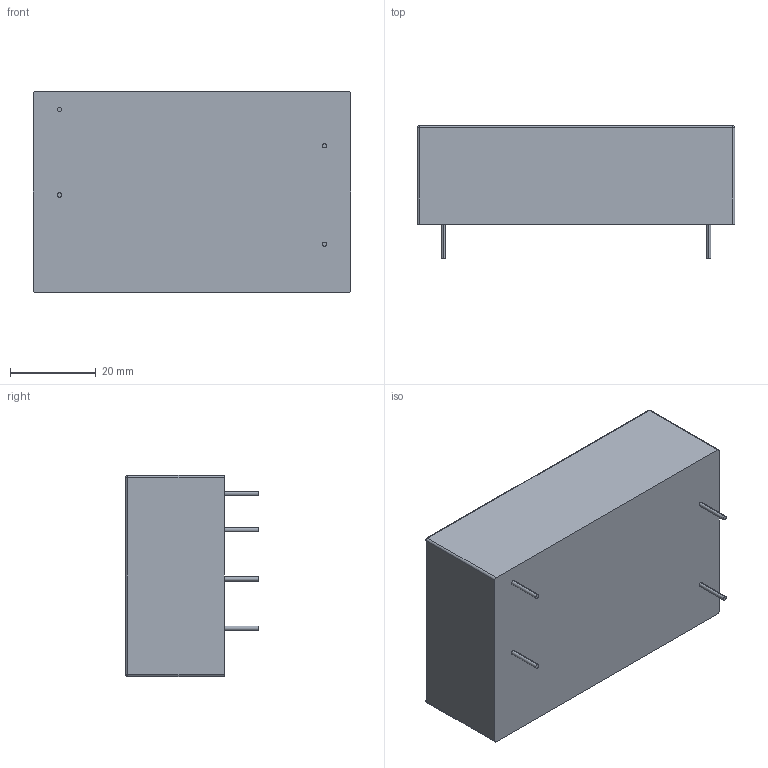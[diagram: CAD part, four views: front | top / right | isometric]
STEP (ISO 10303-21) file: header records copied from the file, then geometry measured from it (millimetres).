
FILE_DESCRIPTION (( 'STEP AP214' ), '1' );
FILE_NAME ('VTX-214-060-1xx.STEP', '2022-03-16T15:59:50', ( '' ), ( '' ), 'SwSTEP 2.0', 'SolidWorks 2022', '' );
FILE_SCHEMA (( 'AUTOMOTIVE_DESIGN' ));
Length unit declared in the file: millimetre
Products named in the file (1): VTX-214-060-1xx
Bounding box: 74.2 x 31.11 x 47 mm (x, y, z)
Volume: 80566.5 mm3; surface area: 12605.4 mm2
Topology: 1 solids, 1 shells, 459 faces, 1195 edges, 790 vertices
Faces by surface type: plane 300, bspline 139, cylinder 16, sphere 4
Entity records: 25891 total; most frequent: CARTESIAN_POINT 10756, ORIENTED_EDGE 2382, DIRECTION 1587, EDGE_CURVE 1191, LINE 881, VECTOR 881, VERTEX_POINT 790, EDGE_LOOP 515
